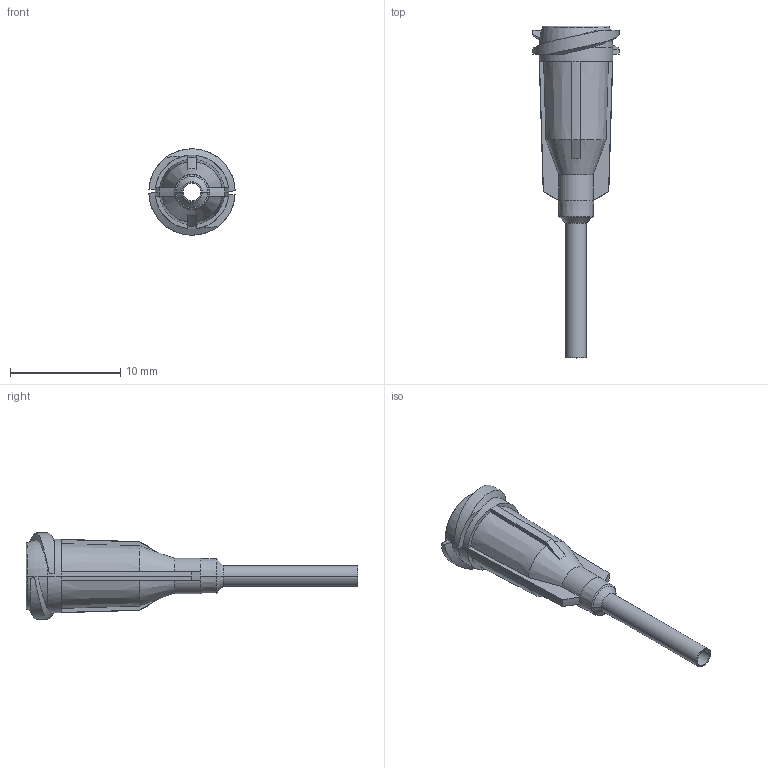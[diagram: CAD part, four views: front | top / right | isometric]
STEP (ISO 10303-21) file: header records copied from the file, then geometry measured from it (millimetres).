
FILE_DESCRIPTION (( 'STEP AP214' ), '1' );
FILE_NAME ('NORDSONEFD-7018027 TIP 14GA GP 060 X 1-2 OL.STEP', '2019-02-21T20:33:02', ( '' ), ( '' ), 'SwSTEP 2.0', 'SolidWorks 2019', '' );
FILE_SCHEMA (( 'AUTOMOTIVE_DESIGN' ));
Length unit declared in the file: inch
Products named in the file (1): NORDSONEFD-7018027 TIP 14GA GP 060 X 1-2 OL
Bounding box: 7.82 x 30.07 x 7.82 mm (x, y, z)
Volume: 260 mm3; surface area: 704.5 mm2
Topology: 1 solids, 1 shells, 98 faces, 228 edges, 136 vertices
Faces by surface type: plane 26, torus 22, cone 22, cylinder 16, bspline 12
Entity records: 3307 total; most frequent: CARTESIAN_POINT 997, DIRECTION 460, ORIENTED_EDGE 456, EDGE_CURVE 228, AXIS2_PLACEMENT_3D 201, VERTEX_POINT 136, CIRCLE 114, EDGE_LOOP 104
